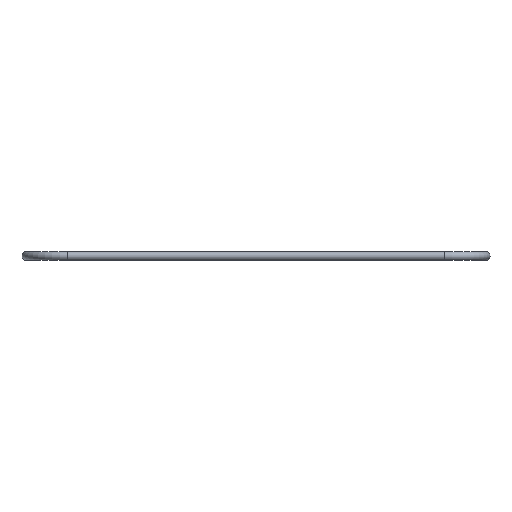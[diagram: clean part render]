
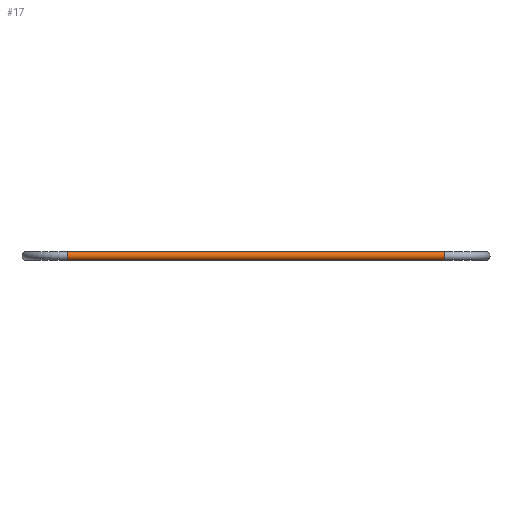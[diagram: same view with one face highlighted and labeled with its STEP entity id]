
A CAD part, front view. The second image highlights one B-rep face of the part: STEP entity #17.
In plain terms, the highlighted cylindrical face has radius 0.5 mm (diameter 1 mm), a full revolution.
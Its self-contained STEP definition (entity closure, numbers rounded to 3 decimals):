
#17 = ADVANCED_FACE('',(#18),#45,.T.);
#18 = FACE_BOUND('',#19,.T.);
#19 = EDGE_LOOP('',(#20,#30,#37,#38));
#20 = ORIENTED_EDGE('',*,*,#21,.T.);
#21 = EDGE_CURVE('',#22,#24,#26,.T.);
#22 = VERTEX_POINT('',#23);
#23 = CARTESIAN_POINT('',(-22.,-26.3,0.));
#24 = VERTEX_POINT('',#25);
#25 = CARTESIAN_POINT('',(22.,-26.3,0.));
#26 = LINE('',#27,#28);
#27 = CARTESIAN_POINT('',(-22.,-26.3,0.));
#28 = VECTOR('',#29,1.);
#29 = DIRECTION('',(1.,0.,0.));
#30 = ORIENTED_EDGE('',*,*,#31,.F.);
#31 = EDGE_CURVE('',#24,#24,#32,.T.);
#32 = CIRCLE('',#33,0.5);
#33 = AXIS2_PLACEMENT_3D('',#34,#35,#36);
#34 = CARTESIAN_POINT('',(22.,-26.8,0.));
#35 = DIRECTION('',(1.,0.,0.));
#36 = DIRECTION('',(0.,1.,0.));
#37 = ORIENTED_EDGE('',*,*,#21,.F.);
#38 = ORIENTED_EDGE('',*,*,#39,.T.);
#39 = EDGE_CURVE('',#22,#22,#40,.T.);
#40 = CIRCLE('',#41,0.5);
#41 = AXIS2_PLACEMENT_3D('',#42,#43,#44);
#42 = CARTESIAN_POINT('',(-22.,-26.8,0.));
#43 = DIRECTION('',(1.,0.,0.));
#44 = DIRECTION('',(0.,1.,0.));
#45 = CYLINDRICAL_SURFACE('',#46,0.5);
#46 = AXIS2_PLACEMENT_3D('',#47,#48,#49);
#47 = CARTESIAN_POINT('',(-22.,-26.8,0.));
#48 = DIRECTION('',(1.,0.,0.));
#49 = DIRECTION('',(0.,1.,0.));
